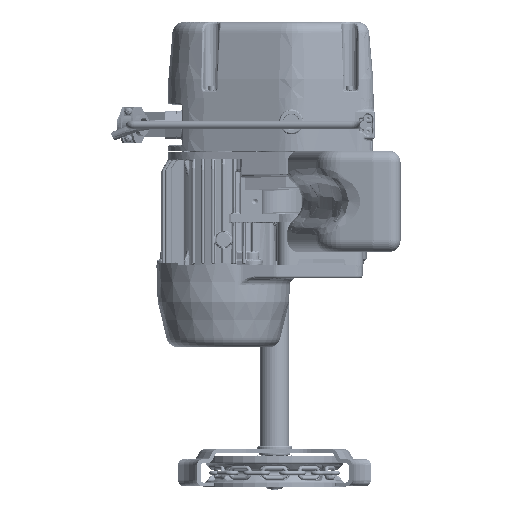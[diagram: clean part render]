
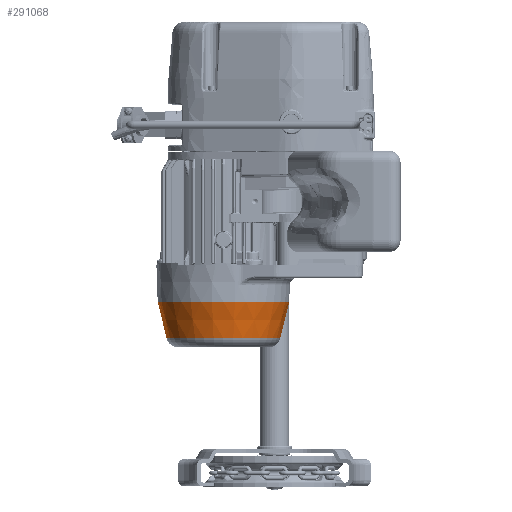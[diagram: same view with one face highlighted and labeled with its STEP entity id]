
A CAD part, front view. The second image highlights one B-rep face of the part: STEP entity #291068.
In plain terms, the highlighted conical face has half-angle 13.829 degrees and reference radius 70 mm.
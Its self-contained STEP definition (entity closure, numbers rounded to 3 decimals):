
#18714 = VERTEX_POINT ( 'NONE', #284151 ) ;
#20329 = DIRECTION ( 'NONE',  ( -1., 0., 0. ) ) ;
#48376 = CARTESIAN_POINT ( 'NONE',  ( -84.332, 0., -47.778 ) ) ;
#49077 = DIRECTION ( 'NONE',  ( 0., 0., 1. ) ) ;
#52524 = LINE ( 'NONE', #145003, #111278 ) ;
#60638 = FACE_OUTER_BOUND ( 'NONE', #233071, .T. ) ;
#70140 = VERTEX_POINT ( 'NONE', #48376 ) ;
#70683 = CIRCLE ( 'NONE', #217285, 72.81 ) ;
#79847 = CARTESIAN_POINT ( 'NONE',  ( -72.81, 0., -94.585 ) ) ;
#80862 = AXIS2_PLACEMENT_3D ( 'NONE', #319682, #169993, #20329 ) ;
#98899 = CARTESIAN_POINT ( 'NONE',  ( -70., 0., -106. ) ) ;
#102713 = DIRECTION ( 'NONE',  ( 1., 0., 0. ) ) ;
#111278 = VECTOR ( 'NONE', #169040, 1000. ) ;
#117352 = EDGE_CURVE ( 'NONE', #185624, #18714, #70683, .T. ) ;
#145003 = CARTESIAN_POINT ( 'NONE',  ( 70., 0., -106. ) ) ;
#149097 = DIRECTION ( 'NONE',  ( -0.239, 0., 0.971 ) ) ;
#151551 = ORIENTED_EDGE ( 'NONE', *, *, #205657, .T. ) ;
#153798 = AXIS2_PLACEMENT_3D ( 'NONE', #178037, #252391, #102713 ) ;
#154521 = VECTOR ( 'NONE', #149097, 1000. ) ;
#169040 = DIRECTION ( 'NONE',  ( 0.239, 0., 0.971 ) ) ;
#169993 = DIRECTION ( 'NONE',  ( 0., 0., -1. ) ) ;
#177950 = CONICAL_SURFACE ( 'NONE', #153798, 70., 0.241 ) ;
#178037 = CARTESIAN_POINT ( 'NONE',  ( 0., 0., -106. ) ) ;
#185624 = VERTEX_POINT ( 'NONE', #79847 ) ;
#198857 = CARTESIAN_POINT ( 'NONE',  ( 0., 0., -94.585 ) ) ;
#205657 = EDGE_CURVE ( 'NONE', #18714, #235930, #52524, .T. ) ;
#205863 = CIRCLE ( 'NONE', #80862, 84.332 ) ;
#210872 = CARTESIAN_POINT ( 'NONE',  ( 84.332, 0., -47.778 ) ) ;
#217285 = AXIS2_PLACEMENT_3D ( 'NONE', #198857, #49077, #224060 ) ;
#224060 = DIRECTION ( 'NONE',  ( -1., 0., 0. ) ) ;
#225787 = EDGE_CURVE ( 'NONE', #235930, #70140, #205863, .T. ) ;
#233071 = EDGE_LOOP ( 'NONE', ( #315958, #292301, #151551, #309625 ) ) ;
#235930 = VERTEX_POINT ( 'NONE', #210872 ) ;
#252391 = DIRECTION ( 'NONE',  ( 0., 0., 1. ) ) ;
#270051 = EDGE_CURVE ( 'NONE', #185624, #70140, #287451, .T. ) ;
#284151 = CARTESIAN_POINT ( 'NONE',  ( 72.81, 0., -94.585 ) ) ;
#287451 = LINE ( 'NONE', #98899, #154521 ) ;
#291068 = ADVANCED_FACE ( 'NONE', ( #60638 ), #177950, .T. ) ;
#292301 = ORIENTED_EDGE ( 'NONE', *, *, #117352, .T. ) ;
#309625 = ORIENTED_EDGE ( 'NONE', *, *, #225787, .T. ) ;
#315958 = ORIENTED_EDGE ( 'NONE', *, *, #270051, .F. ) ;
#319682 = CARTESIAN_POINT ( 'NONE',  ( 0., 0., -47.778 ) ) ;
